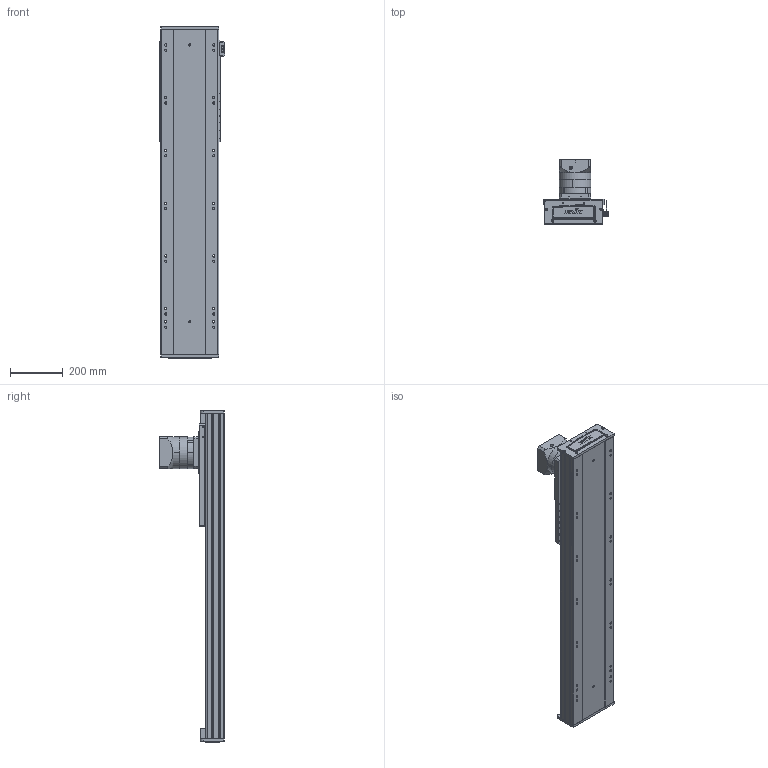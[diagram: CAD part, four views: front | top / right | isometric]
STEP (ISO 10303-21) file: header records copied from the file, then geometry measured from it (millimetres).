
FILE_DESCRIPTION (( 'STEP AP203' ), '1' );
FILE_NAME ('RY220-C-300-UK.SLDASM_0750.step', '2022-08-01T05:58:49', ( '' ), ( '' ), 'SwSTEP 2.0', 'SolidWorks 2016', '' );
FILE_SCHEMA (( 'CONFIG_CONTROL_DESIGN' ));
Length unit declared in the file: millimetre
Products named in the file (10): 滅袉蝶輸ㄗG412隅秶ㄘ; PF115L1-S2-22-58-110-145-M8; 覜茼ん674; RY220-C-300-UK.SLDASM_0750; RY140直线电机感应器674光电安装座; RY220喘沭賑輸; RY220-齿条模组电机安装板; RY220喘沭綴裔啣; RY220菁釱MK-300_0750; RY220喘沭俋离覜茼え
Assembly tree (12 placements, depth 2):
  RY220-C-300-UK.SLDASM_0750
    RY220菁釱MK-300_0750
    RY220喘沭賑輸
    RY220-齿条模组电机安装板
    PF115L1-S2-22-58-110-145-M8
    RY220喘沭綴裔啣  x2
    滅袉蝶輸ㄗG412隅秶ㄘ  x2
    RY140直线电机感应器674光电安装座
    覜茼ん674  x2
    RY220喘沭俋离覜茼え
Bounding box: 247 x 244.5 x 1259 mm (x, y, z)
Volume: 11047208.3 mm3; surface area: 2135870.9 mm2
Topology: 18 solids, 26 shells, 1908 faces, 5111 edges, 3272 vertices
Faces by surface type: cylinder 859, plane 751, bspline 162, cone 136
Entity records: 60349 total; most frequent: CARTESIAN_POINT 16732, DIRECTION 8859, ORIENTED_EDGE 8850, EDGE_CURVE 4425, AXIS2_PLACEMENT_3D 3347, VERTEX_POINT 2898, VECTOR 2165, LINE 2165
